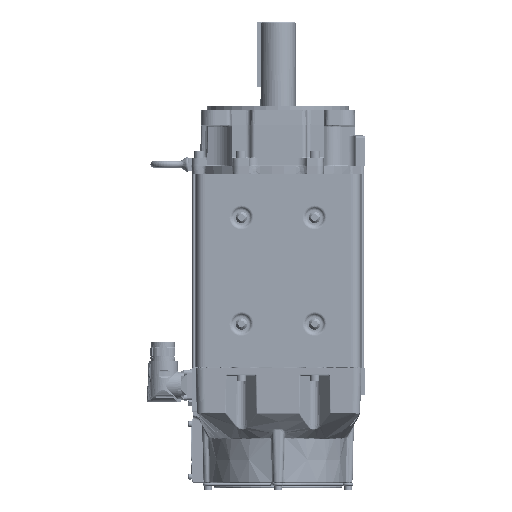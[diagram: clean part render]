
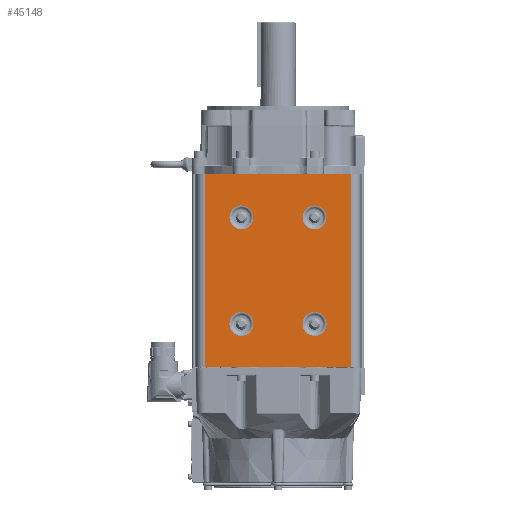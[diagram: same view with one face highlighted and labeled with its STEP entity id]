
A CAD part, left-side view. The second image highlights one B-rep face of the part: STEP entity #45148.
In plain terms, the highlighted planar face has unit normal (-1, 0, 0).
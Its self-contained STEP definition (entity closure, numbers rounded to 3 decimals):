
#43912=DIRECTION('',(0.,0.,-1.));
#43913=VECTOR('',#43912,176.3);
#43914=CARTESIAN_POINT('',(0.,-67.15,88.15));
#43915=LINE('',#43914,#43913);
#44006=DIRECTION('',(0.,1.,0.));
#44007=VECTOR('',#44006,134.3);
#44008=CARTESIAN_POINT('',(0.,-67.15,88.15));
#44009=LINE('',#44008,#44007);
#44018=DIRECTION('',(0.,0.,-1.));
#44019=VECTOR('',#44018,176.3);
#44020=CARTESIAN_POINT('',(0.,67.15,88.15));
#44021=LINE('',#44020,#44019);
#44022=CARTESIAN_POINT('',(0.,-33.41,48.65));
#44023=DIRECTION('',(-1.,0.,0.));
#44024=DIRECTION('',(0.,0.,1.));
#44025=AXIS2_PLACEMENT_3D('',#44022,#44023,#44024);
#44027=CARTESIAN_POINT('',(0.,-33.41,48.65));
#44028=DIRECTION('',(-1.,0.,0.));
#44029=DIRECTION('',(0.,0.,-1.));
#44030=AXIS2_PLACEMENT_3D('',#44027,#44028,#44029);
#44032=CARTESIAN_POINT('',(0.,-33.41,-48.65));
#44033=DIRECTION('',(-1.,0.,0.));
#44034=DIRECTION('',(0.,0.,1.));
#44035=AXIS2_PLACEMENT_3D('',#44032,#44033,#44034);
#44037=CARTESIAN_POINT('',(0.,-33.41,-48.65));
#44038=DIRECTION('',(-1.,0.,0.));
#44039=DIRECTION('',(0.,0.,-1.));
#44040=AXIS2_PLACEMENT_3D('',#44037,#44038,#44039);
#44042=CARTESIAN_POINT('',(0.,33.39,48.65));
#44043=DIRECTION('',(-1.,0.,0.));
#44044=DIRECTION('',(0.,0.,1.));
#44045=AXIS2_PLACEMENT_3D('',#44042,#44043,#44044);
#44047=CARTESIAN_POINT('',(0.,33.39,48.65));
#44048=DIRECTION('',(-1.,0.,0.));
#44049=DIRECTION('',(0.,0.,-1.));
#44050=AXIS2_PLACEMENT_3D('',#44047,#44048,#44049);
#44052=CARTESIAN_POINT('',(0.,33.39,-48.65));
#44053=DIRECTION('',(-1.,0.,0.));
#44054=DIRECTION('',(0.,0.,1.));
#44055=AXIS2_PLACEMENT_3D('',#44052,#44053,#44054);
#44057=CARTESIAN_POINT('',(0.,33.39,-48.65));
#44058=DIRECTION('',(-1.,0.,0.));
#44059=DIRECTION('',(0.,0.,-1.));
#44060=AXIS2_PLACEMENT_3D('',#44057,#44058,#44059);
#44062=DIRECTION('',(0.,1.,0.));
#44063=VECTOR('',#44062,134.3);
#44064=CARTESIAN_POINT('',(0.,-67.15,-88.15));
#44065=LINE('',#44064,#44063);
#44726=CARTESIAN_POINT('',(0.,-67.15,88.15));
#44727=CARTESIAN_POINT('',(0.,67.15,88.15));
#44728=VERTEX_POINT('',#44726);
#44729=VERTEX_POINT('',#44727);
#44738=CARTESIAN_POINT('',(0.,-67.15,-88.15));
#44739=CARTESIAN_POINT('',(0.,67.15,-88.15));
#44740=VERTEX_POINT('',#44738);
#44741=VERTEX_POINT('',#44739);
#44782=CARTESIAN_POINT('',(0.,-33.41,59.635));
#44783=CARTESIAN_POINT('',(0.,-33.41,37.665));
#44784=VERTEX_POINT('',#44782);
#44785=VERTEX_POINT('',#44783);
#44822=CARTESIAN_POINT('',(0.,-33.41,-37.665));
#44823=CARTESIAN_POINT('',(0.,-33.41,-59.635));
#44824=VERTEX_POINT('',#44822);
#44825=VERTEX_POINT('',#44823);
#44862=CARTESIAN_POINT('',(0.,33.39,59.635));
#44863=CARTESIAN_POINT('',(0.,33.39,37.665));
#44864=VERTEX_POINT('',#44862);
#44865=VERTEX_POINT('',#44863);
#44902=CARTESIAN_POINT('',(0.,33.39,-37.665));
#44903=CARTESIAN_POINT('',(0.,33.39,-59.635));
#44904=VERTEX_POINT('',#44902);
#44905=VERTEX_POINT('',#44903);
#45111=CARTESIAN_POINT('',(0.,67.15,88.15));
#45112=DIRECTION('',(-1.,0.,0.));
#45113=DIRECTION('',(0.,-1.,0.));
#45114=AXIS2_PLACEMENT_3D('',#45111,#45112,#45113);
#45115=PLANE('',#45114);
#45116=ORIENTED_EDGE('',*,*,#45102,.F.);
#45117=ORIENTED_EDGE('',*,*,#44985,.T.);
#45119=ORIENTED_EDGE('',*,*,#45118,.T.);
#45121=ORIENTED_EDGE('',*,*,#45120,.F.);
#45122=EDGE_LOOP('',(#45116,#45117,#45119,#45121));
#45123=FACE_OUTER_BOUND('',#45122,.F.);
#45125=ORIENTED_EDGE('',*,*,#45124,.T.);
#45127=ORIENTED_EDGE('',*,*,#45126,.T.);
#45128=EDGE_LOOP('',(#45125,#45127));
#45129=FACE_BOUND('',#45128,.F.);
#45131=ORIENTED_EDGE('',*,*,#45130,.T.);
#45133=ORIENTED_EDGE('',*,*,#45132,.T.);
#45134=EDGE_LOOP('',(#45131,#45133));
#45135=FACE_BOUND('',#45134,.F.);
#45137=ORIENTED_EDGE('',*,*,#45136,.T.);
#45139=ORIENTED_EDGE('',*,*,#45138,.T.);
#45140=EDGE_LOOP('',(#45137,#45139));
#45141=FACE_BOUND('',#45140,.F.);
#45143=ORIENTED_EDGE('',*,*,#45142,.T.);
#45145=ORIENTED_EDGE('',*,*,#45144,.T.);
#45146=EDGE_LOOP('',(#45143,#45145));
#45147=FACE_BOUND('',#45146,.F.);
#45148=ADVANCED_FACE('',(#45123,#45129,#45135,#45141,#45147),#45115,.T.);
#44026=CIRCLE('',#44025,10.985);
#44031=CIRCLE('',#44030,10.985);
#44036=CIRCLE('',#44035,10.985);
#44041=CIRCLE('',#44040,10.985);
#44046=CIRCLE('',#44045,10.985);
#44051=CIRCLE('',#44050,10.985);
#44056=CIRCLE('',#44055,10.985);
#44061=CIRCLE('',#44060,10.985);
#44985=EDGE_CURVE('',#44728,#44740,#43915,.T.);
#45102=EDGE_CURVE('',#44728,#44729,#44009,.T.);
#45118=EDGE_CURVE('',#44740,#44741,#44065,.T.);
#45120=EDGE_CURVE('',#44729,#44741,#44021,.T.);
#45124=EDGE_CURVE('',#44784,#44785,#44026,.T.);
#45126=EDGE_CURVE('',#44785,#44784,#44031,.T.);
#45130=EDGE_CURVE('',#44824,#44825,#44036,.T.);
#45132=EDGE_CURVE('',#44825,#44824,#44041,.T.);
#45136=EDGE_CURVE('',#44864,#44865,#44046,.T.);
#45138=EDGE_CURVE('',#44865,#44864,#44051,.T.);
#45142=EDGE_CURVE('',#44904,#44905,#44056,.T.);
#45144=EDGE_CURVE('',#44905,#44904,#44061,.T.);
